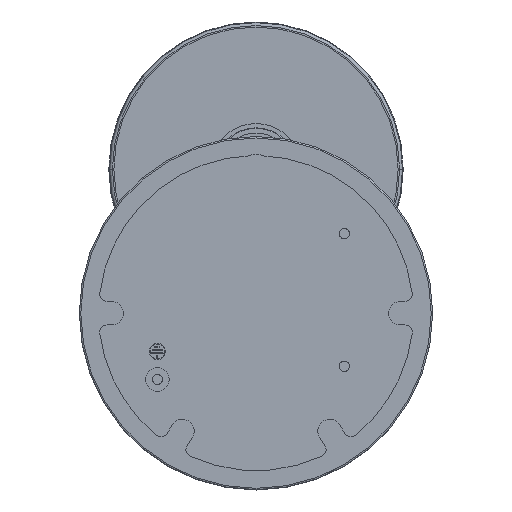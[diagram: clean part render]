
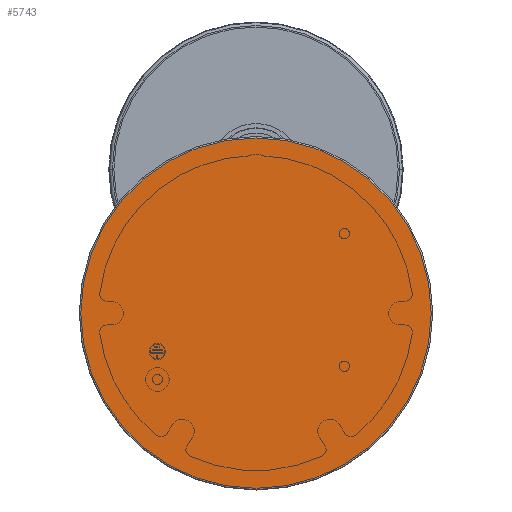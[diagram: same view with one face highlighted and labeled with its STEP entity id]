
A CAD part, top view. The second image highlights one B-rep face of the part: STEP entity #5743.
In plain terms, the highlighted planar face has unit normal (0, 0, 1).
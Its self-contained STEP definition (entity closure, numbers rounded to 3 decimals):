
#667 = PLANE ( 'NONE',  #11618 ) ;
#701 = CIRCLE ( 'NONE', #9901, 59.5 ) ;
#3713 = EDGE_CURVE ( 'NONE', #3803, #11116, #701, .T. ) ;
#3803 = VERTEX_POINT ( 'NONE', #9191 ) ;
#5097 = ORIENTED_EDGE ( 'NONE', *, *, #3713, .T. ) ;
#5743 = ADVANCED_FACE ( 'NONE', ( #8523 ), #667, .T. ) ;
#5795 = DIRECTION ( 'NONE',  ( 1., 0., 0. ) ) ;
#7136 = DIRECTION ( 'NONE',  ( 0., 0., 1. ) ) ;
#8523 = FACE_OUTER_BOUND ( 'NONE', #9612, .T. ) ;
#9191 = CARTESIAN_POINT ( 'NONE',  ( -59.5, 0., 35. ) ) ;
#9298 = CIRCLE ( 'NONE', #12647, 59.5 ) ;
#9612 = EDGE_LOOP ( 'NONE', ( #5097, #10905 ) ) ;
#9901 = AXIS2_PLACEMENT_3D ( 'NONE', #11897, #10498, #13466 ) ;
#10498 = DIRECTION ( 'NONE',  ( 0., 0., 1. ) ) ;
#10905 = ORIENTED_EDGE ( 'NONE', *, *, #16655, .T. ) ;
#11116 = VERTEX_POINT ( 'NONE', #12085 ) ;
#11618 = AXIS2_PLACEMENT_3D ( 'NONE', #15240, #12530, #5795 ) ;
#11897 = CARTESIAN_POINT ( 'NONE',  ( 0., 0., 35. ) ) ;
#12085 = CARTESIAN_POINT ( 'NONE',  ( 59.5, 0., 35. ) ) ;
#12530 = DIRECTION ( 'NONE',  ( 0., 0., 1. ) ) ;
#12551 = DIRECTION ( 'NONE',  ( 1., 0., 0. ) ) ;
#12647 = AXIS2_PLACEMENT_3D ( 'NONE', #14197, #7136, #12551 ) ;
#13466 = DIRECTION ( 'NONE',  ( 1., 0., 0. ) ) ;
#14197 = CARTESIAN_POINT ( 'NONE',  ( 0., 0., 35. ) ) ;
#15240 = CARTESIAN_POINT ( 'NONE',  ( 0., 0., 35. ) ) ;
#16655 = EDGE_CURVE ( 'NONE', #11116, #3803, #9298, .T. ) ;
